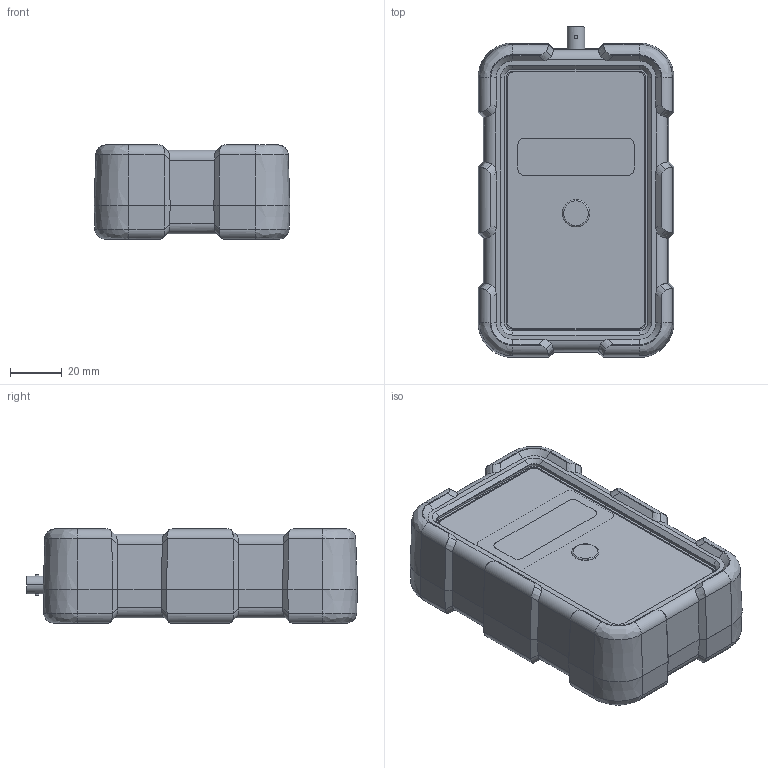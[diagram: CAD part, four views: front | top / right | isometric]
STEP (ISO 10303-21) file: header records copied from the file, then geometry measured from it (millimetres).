
FILE_DESCRIPTION (( 'STEP AP214' ), '1' );
FILE_NAME ('HTX-100-PWR.STEP', '2016-05-10T20:15:25', ( '' ), ( '' ), 'SwSTEP 2.0', 'SolidWorks 2016', '' );
FILE_SCHEMA (( 'AUTOMOTIVE_DESIGN' ));
Length unit declared in the file: millimetre
Products named in the file (1): HTX-100-PWR
Bounding box: 76 x 128.36 x 36.5 mm (x, y, z)
Surface area: 41405.4 mm2 (no closed solid volume)
Topology: 0 solids, 13 shells, 365 faces, 1255 edges, 891 vertices
Faces by surface type: plane 177, cylinder 112, bspline 53, cone 19, torus 4
Entity records: 19818 total; most frequent: CARTESIAN_POINT 5926, ORIENTED_EDGE 2089, DIRECTION 1752, EDGE_CURVE 1255, VERTEX_POINT 891, LINE 690, VECTOR 690, AXIS2_PLACEMENT_3D 531
